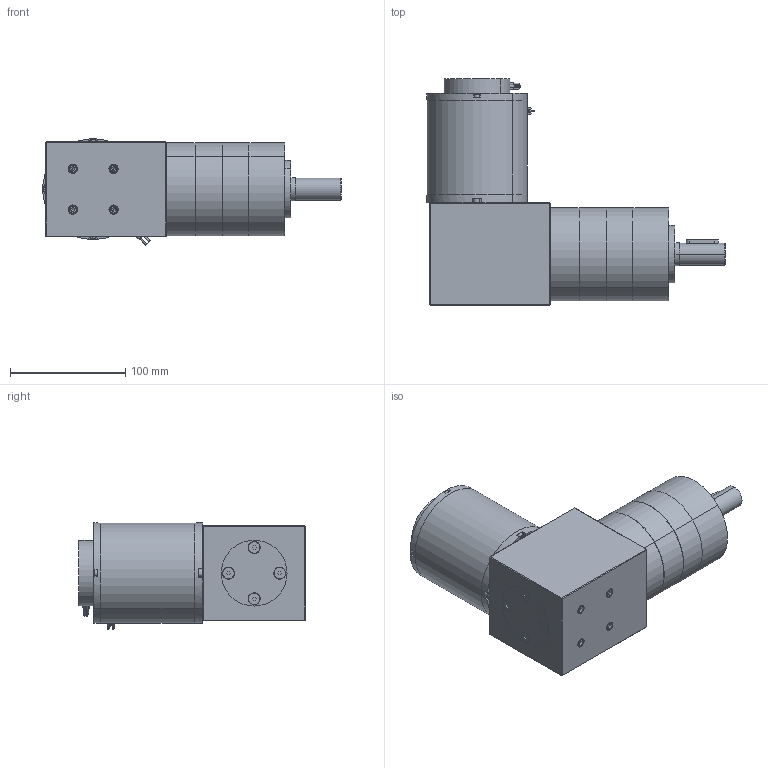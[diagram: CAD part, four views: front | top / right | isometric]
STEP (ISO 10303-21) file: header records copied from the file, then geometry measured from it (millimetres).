
FILE_DESCRIPTION (( 'STEP AP203' ), '1' );
FILE_NAME ('bl86425gra3.step', '2018-12-07T19:07:53', ( '' ), ( '' ), 'SwSTEP 2.0', 'SolidWorks 2017', '' );
FILE_SCHEMA (( 'CONFIG_CONTROL_DESIGN' ));
Length unit declared in the file: inch
Products named in the file (1): bl86425gra3
Bounding box: 259.03 x 196.85 x 92.26 mm (x, y, z)
Volume: 1920377.8 mm3; surface area: 214961.2 mm2
Topology: 35 solids, 35 shells, 1287 faces, 3210 edges, 2062 vertices
Faces by surface type: cylinder 746, plane 384, cone 133, torus 16, bspline 8
Entity records: 57418 total; most frequent: CARTESIAN_POINT 29102, ORIENTED_EDGE 6380, DIRECTION 5451, EDGE_CURVE 3190, VERTEX_POINT 2062, AXIS2_PLACEMENT_3D 1989, LINE 1473, VECTOR 1473
